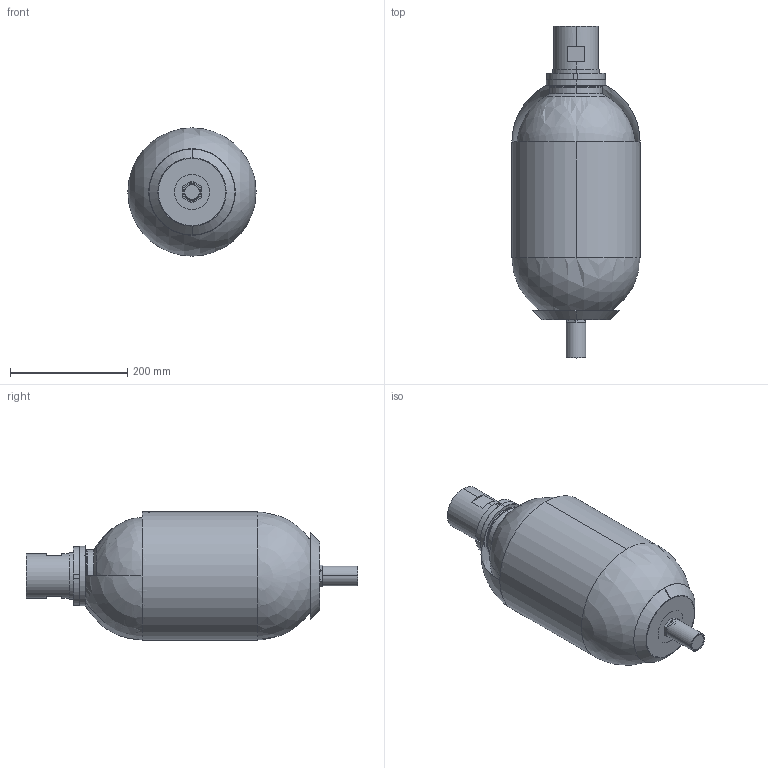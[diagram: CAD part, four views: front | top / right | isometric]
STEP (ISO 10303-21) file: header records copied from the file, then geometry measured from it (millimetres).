
FILE_DESCRIPTION((''),'2;1');
FILE_NAME('EHV_10_330_90.stp','2011-02-28T16:46:27',(''),(''),'Mechanical Desktop 2009','Mechanical Desktop 2009',', , ');
FILE_SCHEMA(('CONFIG_CONTROL_DESIGN'));
Length unit declared in the file: millimetre
Products named in the file (73): DESSIN10; AC108370-01125; CA108360-00190; CA108360-00190A; EC102958-00200A; EC102958-00200; BP102851-00200; BOUCHON DE PROTECTION; BOUCHON PLASTIQUE; PF108368-05200A; PF108368-05200; PF108368-05200|AVE_RENDER; PF108368-05200|AVE_GLOBAL; BC110298-01720; BE105544-01700A; BE105544-01700; EC100990-01200; EC100990-01200A; BM110296-01700; CB110082-01700; CB110082-01700A; GABARIT; VE108376-00225; CS108388-00225; CV108365-00200; CV108365-00200A; CS108388-00025A; CS108388-00025; CI100237-00025; CI100237-00025A; VA108479-01626; VA108473-01626; VA108439-01600A; VA108439-01600; VA108439-01600|GABARIT; VA108437-01600A; VA108437-01600; VA108437-01600|GABARITMDT4; VA108437-01600|GABARIT; PI108438-01600A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
Assembly tree (28 placements, depth 6):
  DESSIN10
    AC108370-01125
      CA108360-00190
        CA108360-00190A
      EC102958-00200A
        EC102958-00200
      BP102851-00200
        BOUCHON DE PROTECTION
        BOUCHON PLASTIQUE
      PF108368-05200A
        PF108368-05200
        PF108368-05200|AVE_RENDER  x8
        PF108368-05200|AVE_GLOBAL
      BC110298-01720
        BE105544-01700A
          BE105544-01700
        EC100990-01200
          EC100990-01200A
        BM110296-01700
          CB110082-01700
            CB110082-01700A
    GABARIT
  VE108376-00225
  CS108388-00225
  CV108365-00200
  CV108365-00200A
Bounding box: 219.1 x 567.2 x 219.1 mm (x, y, z)
Volume: 3403522 mm3; surface area: 764257.8 mm2
Topology: 8 solids, 8 shells, 207 faces, 495 edges, 301 vertices
Faces by surface type: cylinder 74, plane 53, cone 48, bspline 21, torus 8, sphere 3
Entity records: 8122 total; most frequent: CARTESIAN_POINT 1982, DIRECTION 1218, ORIENTED_EDGE 958, AXIS2_PLACEMENT_3D 522, EDGE_CURVE 479, VERTEX_POINT 297, CIRCLE 287, EDGE_LOOP 242
